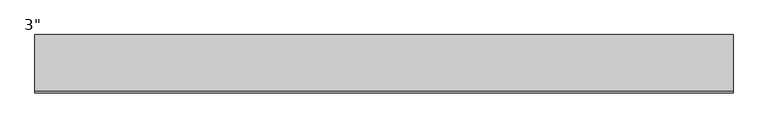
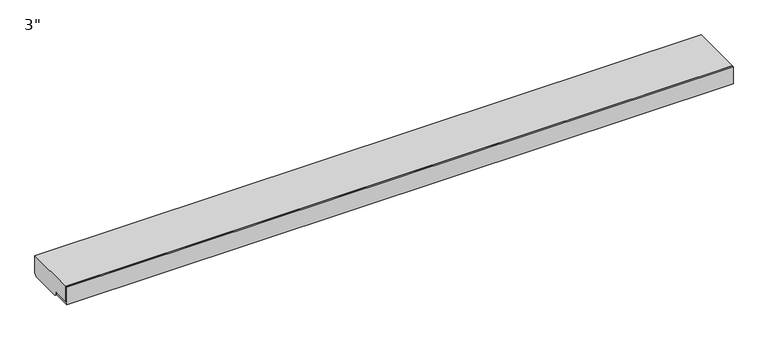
"""IFC4 building model written with IfcOpenShell, lengths in millimetres: proxy geometry."""

from ifc_helpers import new_model, si_unit, frame, origin, place, context, project, spatial, polyline, outline, extrude, faceted_brep, source, transform, mapped, element, save


def proxy_c85420ac(model_context):
    return source(origin(), model_context, "Body", "SolidModel", [
        faceted_brep([(1219.2, 101.6, 9.525), (1219.2, 101.6, 76.2), (1219.2, -95.25, 76.2), (1219.2, -95.25, 15.875), (1219.2, -34.925, 15.875), (1219.2, -34.925, 9.525), (1219.2, -25.4, 0.0), (1219.2, 92.075, 0.0), (-1219.2, 101.6, 9.525), (-1219.2, 92.075, 0.0), (-1219.2, -25.4, 0.0), (-1219.2, -34.925, 9.525), (-1219.2, -34.925, 15.875), (-1219.2, -95.25, 15.875), (-1219.2, -95.25, 76.2), (-1219.2, 101.6, 76.2), (1143.0, 101.6, 9.525), (1092.2, 101.6, 9.525), (939.8, 101.6, 9.525), (889.0, 101.6, 9.525), (736.6, 101.6, 9.525), (685.8, 101.6, 9.525), (533.4, 101.6, 9.525), (482.6, 101.6, 9.525), (330.2, 101.6, 9.525), (279.4, 101.6, 9.525), (127.0, 101.6, 9.525), (76.2, 101.6, 9.525), (-76.2, 101.6, 9.525), (-127.0, 101.6, 9.525), (-279.4, 101.6, 9.525), (-330.2, 101.6, 9.525), (-482.6, 101.6, 9.525), (-533.4, 101.6, 9.525), (-685.8, 101.6, 9.525), (-736.6, 101.6, 9.525), (-889.0, 101.6, 9.525), (-939.8, 101.6, 9.525), (-1092.2, 101.6, 9.525), (-1143.0, 101.6, 9.525), (-889.0, 92.075, 0.0), (-736.6, 92.075, 0.0), (-736.6, -25.4, 0.0), (-889.0, -25.4, 0.0), (-685.8, 92.075, 0.0), (-533.4, 92.075, 0.0), (-533.4, -25.4, 0.0), (-685.8, -25.4, 0.0), (-482.6, 92.075, 0.0), (-330.2, 92.075, 0.0), (-330.2, -25.4, 0.0), (-482.6, -25.4, 0.0), (-279.4, 92.075, 0.0), (-127.0, 92.075, 0.0), (-127.0, -25.4, 0.0), (-279.4, -25.4, 0.0), (-76.2, 92.075, 0.0), (76.2, 92.075, 0.0), (76.2, -25.4, 0.0), (-76.2, -25.4, 0.0), (127.0, 92.075, 0.0), (279.4, 92.075, 0.0), (279.4, -25.4, 0.0), (127.0, -25.4, 0.0), (330.2, 92.075, 0.0), (482.6, 92.075, 0.0), (482.6, -25.4, 0.0), (330.2, -25.4, 0.0), (533.4, 92.075, 0.0), (685.8, 92.075, 0.0), (685.8, -25.4, 0.0), (533.4, -25.4, 0.0), (736.6, 92.075, 0.0), (889.0, 92.075, 0.0), (889.0, -25.4, 0.0), (736.6, -25.4, 0.0), (939.8, 92.075, 0.0), (1092.2, 92.075, 0.0), (1092.2, -25.4, 0.0), (939.8, -25.4, 0.0), (1143.0, -25.4, 0.0), (1143.0, 92.075, 0.0), (-1143.0, 92.075, 0.0), (-1143.0, -25.4, 0.0), (-1092.2, 92.075, 0.0), (-939.8, 92.075, 0.0), (-939.8, -25.4, 0.0), (-1092.2, -25.4, 0.0), (-1143.0, -34.925, 9.525), (-1092.2, -34.925, 9.525), (-939.8, -34.925, 9.525), (-889.0, -34.925, 9.525), (-736.6, -34.925, 9.525), (-685.8, -34.925, 9.525), (-533.4, -34.925, 9.525), (-482.6, -34.925, 9.525), (-330.2, -34.925, 9.525), (-279.4, -34.925, 9.525), (-127.0, -34.925, 9.525), (-76.2, -34.925, 9.525), (76.2, -34.925, 9.525), (127.0, -34.925, 9.525), (279.4, -34.925, 9.525), (330.2, -34.925, 9.525), (482.6, -34.925, 9.525), (533.4, -34.925, 9.525), (685.8, -34.925, 9.525), (736.6, -34.925, 9.525), (889.0, -34.925, 9.525), (939.8, -34.925, 9.525), (1092.2, -34.925, 9.525), (1143.0, -34.925, 9.525)], [[[0, 1, 2, 3, 4, 5, 6, 7]], [[8, 9, 10, 11, 12, 13, 14, 15]], [[4, 3, 13, 12]], [[3, 2, 14, 13]], [[2, 1, 15, 14]], [[1, 0, 16, 17, 18, 19, 20, 21, 22, 23, 24, 25, 26, 27, 28, 29, 30, 31, 32, 33, 34, 35, 36, 37, 38, 39, 8, 15]], [[40, 41, 42, 43]], [[44, 45, 46, 47]], [[48, 49, 50, 51]], [[52, 53, 54, 55]], [[56, 57, 58, 59]], [[60, 61, 62, 63]], [[64, 65, 66, 67]], [[68, 69, 70, 71]], [[72, 73, 74, 75]], [[76, 77, 78, 79]], [[7, 6, 80, 81]], [[10, 9, 82, 83]], [[84, 85, 86, 87]], [[5, 4, 12, 11, 88, 89, 90, 91, 92, 93, 94, 95, 96, 97, 98, 99, 100, 101, 102, 103, 104, 105, 106, 107, 108, 109, 110, 111]], [[41, 40, 36, 35]], [[45, 44, 34, 33]], [[49, 48, 32, 31]], [[53, 52, 30, 29]], [[57, 56, 28, 27]], [[61, 60, 26, 25]], [[65, 64, 24, 23]], [[69, 68, 22, 21]], [[73, 72, 20, 19]], [[77, 76, 18, 17]], [[0, 7, 81, 16]], [[9, 8, 39, 82]], [[85, 84, 38, 37]], [[92, 91, 43, 42]], [[94, 93, 47, 46]], [[96, 95, 51, 50]], [[98, 97, 55, 54]], [[100, 99, 59, 58]], [[102, 101, 63, 62]], [[104, 103, 67, 66]], [[106, 105, 71, 70]], [[108, 107, 75, 74]], [[110, 109, 79, 78]], [[6, 5, 111, 80]], [[11, 10, 83, 88]], [[90, 89, 87, 86]], [[91, 36, 40, 43]], [[36, 91, 90, 37]], [[37, 90, 86, 85]], [[93, 34, 44, 47]], [[34, 93, 92, 35]], [[35, 92, 42, 41]], [[95, 32, 48, 51]], [[32, 95, 94, 33]], [[33, 94, 46, 45]], [[97, 30, 52, 55]], [[30, 97, 96, 31]], [[31, 96, 50, 49]], [[99, 28, 56, 59]], [[28, 99, 98, 29]], [[29, 98, 54, 53]], [[101, 26, 60, 63]], [[26, 101, 100, 27]], [[27, 100, 58, 57]], [[103, 24, 64, 67]], [[24, 103, 102, 25]], [[25, 102, 62, 61]], [[105, 22, 68, 71]], [[22, 105, 104, 23]], [[23, 104, 66, 65]], [[107, 20, 72, 75]], [[20, 107, 106, 21]], [[21, 106, 70, 69]], [[109, 18, 76, 79]], [[18, 109, 108, 19]], [[19, 108, 74, 73]], [[111, 16, 81, 80]], [[16, 111, 110, 17]], [[17, 110, 78, 77]], [[39, 88, 83, 82]], [[88, 39, 38, 89]], [[89, 38, 84, 87]]]),
        extrude(outline(polyline([(-101.6, 76.2), (-95.25, 76.2), (-95.25, 15.875), (-34.925, 15.875), (-34.925, 9.525), (-101.6, 9.525), (-101.6, 76.2)])), frame((-1219.2, 0.0, 0.0), z_axis=(1.0, 0.0, 0.0), x_axis=(0.0, 1.0, 0.0)), (0.0, 0.0, 1.0), 2438.4),
    ])


if __name__ == "__main__":
    model = new_model("IFC4")
    model_context = context("Model", 3, world=origin())
    ifc_project = project(units=[si_unit("LENGTHUNIT", "METRE", prefix="MILLI")], contexts=[model_context])
    site = spatial("IfcSite", under=ifc_project)
    building = spatial("IfcBuilding", under=site)
    placement = place(None, origin())
    proxy_shape = proxy_c85420ac(model_context)
    element("IfcBuildingElementProxy", 1, Name="Durabond Generic Model Equalite Select Vent Board : 3\"", ObjectType="Durabond Generic Model Equalite Select Vent Board : 3\"", at=placement, inside=building, context=model_context, shape_type="MappedRepresentation", body=[
        mapped(proxy_shape, transform((0.0, 0.0, 0.0), x_axis=(1.0, 0.0, 0.0), y_axis=(0.0, 1.0, 0.0), z_axis=(0.0, 0.0, 1.0))),
    ])
    save(model, "model.ifc")
